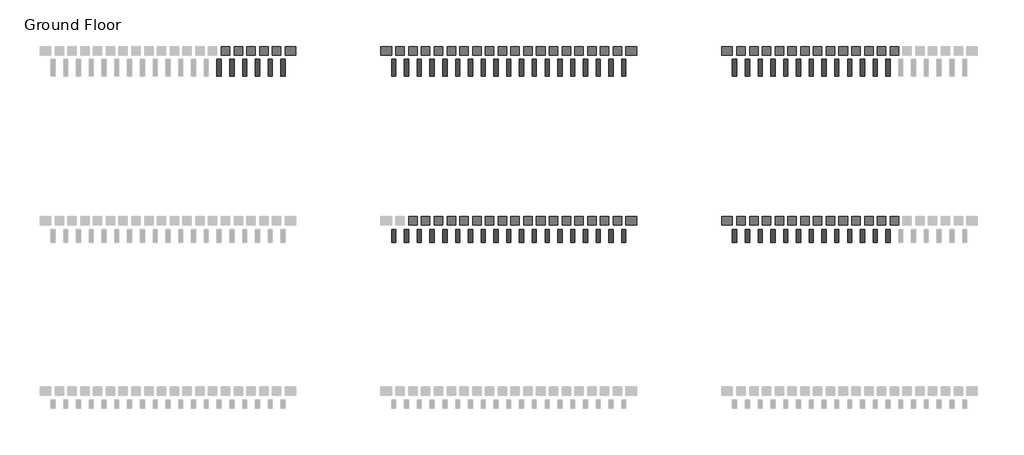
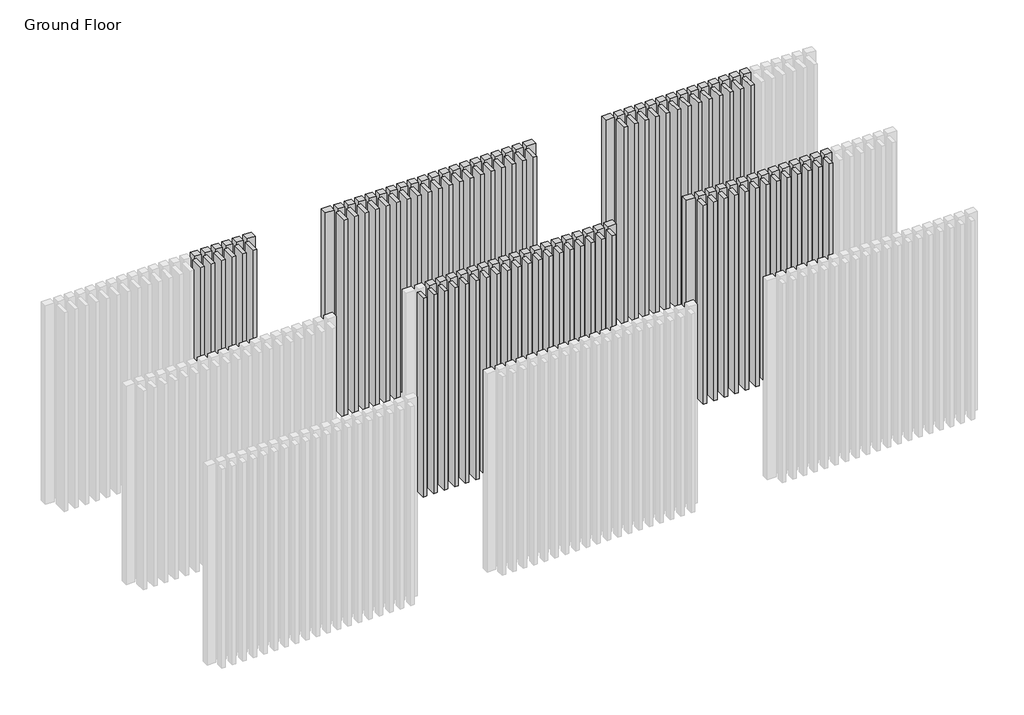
# One storey, part 21 of 350: 72 plates, 70 members.
"""IFC4 building model written with IfcOpenShell, lengths in millimetres."""

from ifc_helpers import new_model, si_unit, origin, place, context, project, spatial, transform, mapped, element, save
from components import rectangular_mullion_afeb8ef8, rectangular_mullion_26362614, empty_system_panel_empty_a8601f27, empty_system_panel_empty_23ba90fe, empty_system_panel_empty_02e968fa

model = new_model("IFC4")

# Units and contexts
model_context = context("Model", 3, world=origin())
ifc_project = project(units=[si_unit("LENGTHUNIT", "METRE", prefix="MILLI")], contexts=[model_context])

# Site, building, storey
site = spatial("IfcSite", under=ifc_project)
building = spatial("IfcBuilding", under=site)
storey = spatial("IfcBuildingStorey", under=building, Name="Ground Floor", Elevation=0.0)

# Members
placement = place(None, origin())
rectangular_mullion_shape = rectangular_mullion_afeb8ef8(model_context)
element("IfcMember", 1, ObjectType="Rectangular Mullion : Batten_Aluminium_Modinex_AluBatten_50x200_TasmanianOak", at=placement, inside=storey, context=model_context, shape_type="MappedRepresentation", body=[
    mapped(rectangular_mullion_shape, transform((18066.4361642, 26968.2978302, 0.0), x_axis=(1.0, 0.0, 0.0), y_axis=(0.0, -1.0, 0.0), z_axis=(0.0, 0.0, -1.0))),
])
element("IfcMember", 2, ObjectType="Rectangular Mullion : Batten_Aluminium_Modinex_AluBatten_50x200_TasmanianOak", at=placement, inside=storey, context=model_context, shape_type="MappedRepresentation", body=[
    mapped(rectangular_mullion_shape, transform((18216.4361642, 26968.2978302, 0.0), x_axis=(1.0, 0.0, 0.0), y_axis=(0.0, -1.0, 0.0), z_axis=(0.0, 0.0, -1.0))),
])
element("IfcMember", 3, ObjectType="Rectangular Mullion : Batten_Aluminium_Modinex_AluBatten_50x200_TasmanianOak", at=placement, inside=storey, context=model_context, shape_type="MappedRepresentation", body=[
    mapped(rectangular_mullion_shape, transform((18366.4361642, 26968.2978302, 0.0), x_axis=(1.0, 0.0, 0.0), y_axis=(0.0, -1.0, 0.0), z_axis=(0.0, 0.0, -1.0))),
])
element("IfcMember", 4, ObjectType="Rectangular Mullion : Batten_Aluminium_Modinex_AluBatten_50x200_TasmanianOak", at=placement, inside=storey, context=model_context, shape_type="MappedRepresentation", body=[
    mapped(rectangular_mullion_shape, transform((18516.4361642, 26968.2978302, 0.0), x_axis=(1.0, 0.0, 0.0), y_axis=(0.0, -1.0, 0.0), z_axis=(0.0, 0.0, -1.0))),
])
element("IfcMember", 5, ObjectType="Rectangular Mullion : Batten_Aluminium_Modinex_AluBatten_50x200_TasmanianOak", at=placement, inside=storey, context=model_context, shape_type="MappedRepresentation", body=[
    mapped(rectangular_mullion_shape, transform((18666.4361642, 26968.2978302, 0.0), x_axis=(1.0, 0.0, 0.0), y_axis=(0.0, -1.0, 0.0), z_axis=(0.0, 0.0, -1.0))),
])
element("IfcMember", 6, ObjectType="Rectangular Mullion : Batten_Aluminium_Modinex_AluBatten_50x200_TasmanianOak", at=placement, inside=storey, context=model_context, shape_type="MappedRepresentation", body=[
    mapped(rectangular_mullion_shape, transform((18816.4361642, 26968.2978302, 0.0), x_axis=(1.0, 0.0, 0.0), y_axis=(0.0, -1.0, 0.0), z_axis=(0.0, 0.0, -1.0))),
])
element("IfcMember", 7, ObjectType="Rectangular Mullion : Batten_Aluminium_Modinex_AluBatten_50x200_TasmanianOak", at=placement, inside=storey, context=model_context, shape_type="MappedRepresentation", body=[
    mapped(rectangular_mullion_shape, transform((18966.4361642, 26968.2978302, 0.0), x_axis=(1.0, 0.0, 0.0), y_axis=(0.0, -1.0, 0.0), z_axis=(0.0, 0.0, -1.0))),
])
element("IfcMember", 8, ObjectType="Rectangular Mullion : Batten_Aluminium_Modinex_AluBatten_50x200_TasmanianOak", at=placement, inside=storey, context=model_context, shape_type="MappedRepresentation", body=[
    mapped(rectangular_mullion_shape, transform((19116.4361642, 26968.2978302, 0.0), x_axis=(1.0, 0.0, 0.0), y_axis=(0.0, -1.0, 0.0), z_axis=(0.0, 0.0, -1.0))),
])
element("IfcMember", 9, ObjectType="Rectangular Mullion : Batten_Aluminium_Modinex_AluBatten_50x200_TasmanianOak", at=placement, inside=storey, context=model_context, shape_type="MappedRepresentation", body=[
    mapped(rectangular_mullion_shape, transform((19266.4361642, 26968.2978302, 0.0), x_axis=(1.0, 0.0, 0.0), y_axis=(0.0, -1.0, 0.0), z_axis=(0.0, 0.0, -1.0))),
])
element("IfcMember", 10, ObjectType="Rectangular Mullion : Batten_Aluminium_Modinex_AluBatten_50x200_TasmanianOak", at=placement, inside=storey, context=model_context, shape_type="MappedRepresentation", body=[
    mapped(rectangular_mullion_shape, transform((19416.4361642, 26968.2978302, 0.0), x_axis=(1.0, 0.0, 0.0), y_axis=(0.0, -1.0, 0.0), z_axis=(0.0, 0.0, -1.0))),
])
element("IfcMember", 11, ObjectType="Rectangular Mullion : Batten_Aluminium_Modinex_AluBatten_50x200_TasmanianOak", at=placement, inside=storey, context=model_context, shape_type="MappedRepresentation", body=[
    mapped(rectangular_mullion_shape, transform((19566.4361642, 26968.2978302, 0.0), x_axis=(1.0, 0.0, 0.0), y_axis=(0.0, -1.0, 0.0), z_axis=(0.0, 0.0, -1.0))),
])
element("IfcMember", 12, ObjectType="Rectangular Mullion : Batten_Aluminium_Modinex_AluBatten_50x200_TasmanianOak", at=placement, inside=storey, context=model_context, shape_type="MappedRepresentation", body=[
    mapped(rectangular_mullion_shape, transform((19716.4361642, 26968.2978302, 0.0), x_axis=(1.0, 0.0, 0.0), y_axis=(0.0, -1.0, 0.0), z_axis=(0.0, 0.0, -1.0))),
])
element("IfcMember", 13, ObjectType="Rectangular Mullion : Batten_Aluminium_Modinex_AluBatten_50x200_TasmanianOak", at=placement, inside=storey, context=model_context, shape_type="MappedRepresentation", body=[
    mapped(rectangular_mullion_shape, transform((19866.4361642, 26968.2978302, 0.0), x_axis=(1.0, 0.0, 0.0), y_axis=(0.0, -1.0, 0.0), z_axis=(0.0, 0.0, -1.0))),
])
element("IfcMember", 14, ObjectType="Rectangular Mullion : Batten_Aluminium_Modinex_AluBatten_50x200_TasmanianOak", at=placement, inside=storey, context=model_context, shape_type="MappedRepresentation", body=[
    mapped(rectangular_mullion_shape, transform((20016.4361642, 26968.2978302, 0.0), x_axis=(1.0, 0.0, 0.0), y_axis=(0.0, -1.0, 0.0), z_axis=(0.0, 0.0, -1.0))),
])
element("IfcMember", 15, ObjectType="Rectangular Mullion : Batten_Aluminium_Modinex_AluBatten_50x200_TasmanianOak", at=placement, inside=storey, context=model_context, shape_type="MappedRepresentation", body=[
    mapped(rectangular_mullion_shape, transform((20166.4361642, 26968.2978302, 0.0), x_axis=(1.0, 0.0, 0.0), y_axis=(0.0, -1.0, 0.0), z_axis=(0.0, 0.0, -1.0))),
])
element("IfcMember", 16, ObjectType="Rectangular Mullion : Batten_Aluminium_Modinex_AluBatten_50x200_TasmanianOak", at=placement, inside=storey, context=model_context, shape_type="MappedRepresentation", body=[
    mapped(rectangular_mullion_shape, transform((20316.4361642, 26968.2978302, 0.0), x_axis=(1.0, 0.0, 0.0), y_axis=(0.0, -1.0, 0.0), z_axis=(0.0, 0.0, -1.0))),
])
element("IfcMember", 17, ObjectType="Rectangular Mullion : Batten_Aluminium_Modinex_AluBatten_50x200_TasmanianOak", at=placement, inside=storey, context=model_context, shape_type="MappedRepresentation", body=[
    mapped(rectangular_mullion_shape, transform((20466.4361642, 26968.2978302, 0.0), x_axis=(1.0, 0.0, 0.0), y_axis=(0.0, -1.0, 0.0), z_axis=(0.0, 0.0, -1.0))),
])
element("IfcMember", 18, ObjectType="Rectangular Mullion : Batten_Aluminium_Modinex_AluBatten_50x200_TasmanianOak", at=placement, inside=storey, context=model_context, shape_type="MappedRepresentation", body=[
    mapped(rectangular_mullion_shape, transform((20616.4361642, 26968.2978302, 0.0), x_axis=(1.0, 0.0, 0.0), y_axis=(0.0, -1.0, 0.0), z_axis=(0.0, 0.0, -1.0))),
])
element("IfcMember", 19, ObjectType="Rectangular Mullion : Batten_Aluminium_Modinex_AluBatten_50x200_TasmanianOak", at=placement, inside=storey, context=model_context, shape_type="MappedRepresentation", body=[
    mapped(rectangular_mullion_shape, transform((20766.4361642, 26968.2978302, 0.0), x_axis=(1.0, 0.0, 0.0), y_axis=(0.0, -1.0, 0.0), z_axis=(0.0, 0.0, -1.0))),
])
rectangular_mullion_2_shape = rectangular_mullion_26362614(model_context)
element("IfcMember", 20, ObjectType="Rectangular Mullion : Batten_Aluminium_Modinex_AluBatten_50x150_TasmanianOak", at=placement, inside=storey, context=model_context, shape_type="MappedRepresentation", body=[
    mapped(rectangular_mullion_2_shape, transform((18066.4361642, 24968.2978302, 0.0), x_axis=(1.0, 0.0, 0.0), y_axis=(0.0, -1.0, 0.0), z_axis=(0.0, 0.0, -1.0))),
])
element("IfcMember", 21, ObjectType="Rectangular Mullion : Batten_Aluminium_Modinex_AluBatten_50x150_TasmanianOak", at=placement, inside=storey, context=model_context, shape_type="MappedRepresentation", body=[
    mapped(rectangular_mullion_2_shape, transform((18216.4361642, 24968.2978302, 0.0), x_axis=(1.0, 0.0, 0.0), y_axis=(0.0, -1.0, 0.0), z_axis=(0.0, 0.0, -1.0))),
])
element("IfcMember", 22, ObjectType="Rectangular Mullion : Batten_Aluminium_Modinex_AluBatten_50x150_TasmanianOak", at=placement, inside=storey, context=model_context, shape_type="MappedRepresentation", body=[
    mapped(rectangular_mullion_2_shape, transform((18366.4361642, 24968.2978302, 0.0), x_axis=(1.0, 0.0, 0.0), y_axis=(0.0, -1.0, 0.0), z_axis=(0.0, 0.0, -1.0))),
])
element("IfcMember", 23, ObjectType="Rectangular Mullion : Batten_Aluminium_Modinex_AluBatten_50x150_TasmanianOak", at=placement, inside=storey, context=model_context, shape_type="MappedRepresentation", body=[
    mapped(rectangular_mullion_2_shape, transform((18516.4361642, 24968.2978302, 0.0), x_axis=(1.0, 0.0, 0.0), y_axis=(0.0, -1.0, 0.0), z_axis=(0.0, 0.0, -1.0))),
])
element("IfcMember", 24, ObjectType="Rectangular Mullion : Batten_Aluminium_Modinex_AluBatten_50x150_TasmanianOak", at=placement, inside=storey, context=model_context, shape_type="MappedRepresentation", body=[
    mapped(rectangular_mullion_2_shape, transform((18666.4361642, 24968.2978302, 0.0), x_axis=(1.0, 0.0, 0.0), y_axis=(0.0, -1.0, 0.0), z_axis=(0.0, 0.0, -1.0))),
])
element("IfcMember", 25, ObjectType="Rectangular Mullion : Batten_Aluminium_Modinex_AluBatten_50x150_TasmanianOak", at=placement, inside=storey, context=model_context, shape_type="MappedRepresentation", body=[
    mapped(rectangular_mullion_2_shape, transform((18816.4361642, 24968.2978302, 0.0), x_axis=(1.0, 0.0, 0.0), y_axis=(0.0, -1.0, 0.0), z_axis=(0.0, 0.0, -1.0))),
])
element("IfcMember", 26, ObjectType="Rectangular Mullion : Batten_Aluminium_Modinex_AluBatten_50x150_TasmanianOak", at=placement, inside=storey, context=model_context, shape_type="MappedRepresentation", body=[
    mapped(rectangular_mullion_2_shape, transform((18966.4361642, 24968.2978302, 0.0), x_axis=(1.0, 0.0, 0.0), y_axis=(0.0, -1.0, 0.0), z_axis=(0.0, 0.0, -1.0))),
])
element("IfcMember", 27, ObjectType="Rectangular Mullion : Batten_Aluminium_Modinex_AluBatten_50x150_TasmanianOak", at=placement, inside=storey, context=model_context, shape_type="MappedRepresentation", body=[
    mapped(rectangular_mullion_2_shape, transform((19116.4361642, 24968.2978302, 0.0), x_axis=(1.0, 0.0, 0.0), y_axis=(0.0, -1.0, 0.0), z_axis=(0.0, 0.0, -1.0))),
])
element("IfcMember", 28, ObjectType="Rectangular Mullion : Batten_Aluminium_Modinex_AluBatten_50x150_TasmanianOak", at=placement, inside=storey, context=model_context, shape_type="MappedRepresentation", body=[
    mapped(rectangular_mullion_2_shape, transform((19266.4361642, 24968.2978302, 0.0), x_axis=(1.0, 0.0, 0.0), y_axis=(0.0, -1.0, 0.0), z_axis=(0.0, 0.0, -1.0))),
])
element("IfcMember", 29, ObjectType="Rectangular Mullion : Batten_Aluminium_Modinex_AluBatten_50x150_TasmanianOak", at=placement, inside=storey, context=model_context, shape_type="MappedRepresentation", body=[
    mapped(rectangular_mullion_2_shape, transform((19416.4361642, 24968.2978302, 0.0), x_axis=(1.0, 0.0, 0.0), y_axis=(0.0, -1.0, 0.0), z_axis=(0.0, 0.0, -1.0))),
])
element("IfcMember", 30, ObjectType="Rectangular Mullion : Batten_Aluminium_Modinex_AluBatten_50x150_TasmanianOak", at=placement, inside=storey, context=model_context, shape_type="MappedRepresentation", body=[
    mapped(rectangular_mullion_2_shape, transform((19566.4361642, 24968.2978302, 0.0), x_axis=(1.0, 0.0, 0.0), y_axis=(0.0, -1.0, 0.0), z_axis=(0.0, 0.0, -1.0))),
])
element("IfcMember", 31, ObjectType="Rectangular Mullion : Batten_Aluminium_Modinex_AluBatten_50x150_TasmanianOak", at=placement, inside=storey, context=model_context, shape_type="MappedRepresentation", body=[
    mapped(rectangular_mullion_2_shape, transform((19716.4361642, 24968.2978302, 0.0), x_axis=(1.0, 0.0, 0.0), y_axis=(0.0, -1.0, 0.0), z_axis=(0.0, 0.0, -1.0))),
])
element("IfcMember", 32, ObjectType="Rectangular Mullion : Batten_Aluminium_Modinex_AluBatten_50x150_TasmanianOak", at=placement, inside=storey, context=model_context, shape_type="MappedRepresentation", body=[
    mapped(rectangular_mullion_2_shape, transform((19866.4361642, 24968.2978302, 0.0), x_axis=(1.0, 0.0, 0.0), y_axis=(0.0, -1.0, 0.0), z_axis=(0.0, 0.0, -1.0))),
])
element("IfcMember", 33, ObjectType="Rectangular Mullion : Batten_Aluminium_Modinex_AluBatten_50x150_TasmanianOak", at=placement, inside=storey, context=model_context, shape_type="MappedRepresentation", body=[
    mapped(rectangular_mullion_2_shape, transform((20016.4361642, 24968.2978302, 0.0), x_axis=(1.0, 0.0, 0.0), y_axis=(0.0, -1.0, 0.0), z_axis=(0.0, 0.0, -1.0))),
])
element("IfcMember", 34, ObjectType="Rectangular Mullion : Batten_Aluminium_Modinex_AluBatten_50x150_TasmanianOak", at=placement, inside=storey, context=model_context, shape_type="MappedRepresentation", body=[
    mapped(rectangular_mullion_2_shape, transform((20166.4361642, 24968.2978302, 0.0), x_axis=(1.0, 0.0, 0.0), y_axis=(0.0, -1.0, 0.0), z_axis=(0.0, 0.0, -1.0))),
])
element("IfcMember", 35, ObjectType="Rectangular Mullion : Batten_Aluminium_Modinex_AluBatten_50x150_TasmanianOak", at=placement, inside=storey, context=model_context, shape_type="MappedRepresentation", body=[
    mapped(rectangular_mullion_2_shape, transform((20316.4361642, 24968.2978302, 0.0), x_axis=(1.0, 0.0, 0.0), y_axis=(0.0, -1.0, 0.0), z_axis=(0.0, 0.0, -1.0))),
])
element("IfcMember", 36, ObjectType="Rectangular Mullion : Batten_Aluminium_Modinex_AluBatten_50x150_TasmanianOak", at=placement, inside=storey, context=model_context, shape_type="MappedRepresentation", body=[
    mapped(rectangular_mullion_2_shape, transform((20466.4361642, 24968.2978302, 0.0), x_axis=(1.0, 0.0, 0.0), y_axis=(0.0, -1.0, 0.0), z_axis=(0.0, 0.0, -1.0))),
])
element("IfcMember", 37, ObjectType="Rectangular Mullion : Batten_Aluminium_Modinex_AluBatten_50x150_TasmanianOak", at=placement, inside=storey, context=model_context, shape_type="MappedRepresentation", body=[
    mapped(rectangular_mullion_2_shape, transform((20616.4361642, 24968.2978302, 0.0), x_axis=(1.0, 0.0, 0.0), y_axis=(0.0, -1.0, 0.0), z_axis=(0.0, 0.0, -1.0))),
])
element("IfcMember", 38, ObjectType="Rectangular Mullion : Batten_Aluminium_Modinex_AluBatten_50x150_TasmanianOak", at=placement, inside=storey, context=model_context, shape_type="MappedRepresentation", body=[
    mapped(rectangular_mullion_2_shape, transform((20766.4361642, 24968.2978302, 0.0), x_axis=(1.0, 0.0, 0.0), y_axis=(0.0, -1.0, 0.0), z_axis=(0.0, 0.0, -1.0))),
])
element("IfcMember", 39, ObjectType="Rectangular Mullion : Batten_Aluminium_Modinex_AluBatten_50x200_SpottedGum", at=placement, inside=storey, context=model_context, shape_type="MappedRepresentation", body=[
    mapped(rectangular_mullion_shape, transform((16016.4361642, 26968.2978302, 0.0), x_axis=(1.0, 0.0, 0.0), y_axis=(0.0, -1.0, 0.0), z_axis=(0.0, 0.0, -1.0))),
])
element("IfcMember", 40, ObjectType="Rectangular Mullion : Batten_Aluminium_Modinex_AluBatten_50x200_SpottedGum", at=placement, inside=storey, context=model_context, shape_type="MappedRepresentation", body=[
    mapped(rectangular_mullion_shape, transform((16166.4361642, 26968.2978302, 0.0), x_axis=(1.0, 0.0, 0.0), y_axis=(0.0, -1.0, 0.0), z_axis=(0.0, 0.0, -1.0))),
])
element("IfcMember", 41, ObjectType="Rectangular Mullion : Batten_Aluminium_Modinex_AluBatten_50x200_SpottedGum", at=placement, inside=storey, context=model_context, shape_type="MappedRepresentation", body=[
    mapped(rectangular_mullion_shape, transform((16316.4361642, 26968.2978302, 0.0), x_axis=(1.0, 0.0, 0.0), y_axis=(0.0, -1.0, 0.0), z_axis=(0.0, 0.0, -1.0))),
])
element("IfcMember", 42, ObjectType="Rectangular Mullion : Batten_Aluminium_Modinex_AluBatten_50x200_SpottedGum", at=placement, inside=storey, context=model_context, shape_type="MappedRepresentation", body=[
    mapped(rectangular_mullion_shape, transform((16466.4361642, 26968.2978302, 0.0), x_axis=(1.0, 0.0, 0.0), y_axis=(0.0, -1.0, 0.0), z_axis=(0.0, 0.0, -1.0))),
])
element("IfcMember", 43, ObjectType="Rectangular Mullion : Batten_Aluminium_Modinex_AluBatten_50x200_SpottedGum", at=placement, inside=storey, context=model_context, shape_type="MappedRepresentation", body=[
    mapped(rectangular_mullion_shape, transform((16616.4361642, 26968.2978302, 0.0), x_axis=(1.0, 0.0, 0.0), y_axis=(0.0, -1.0, 0.0), z_axis=(0.0, 0.0, -1.0))),
])
element("IfcMember", 44, ObjectType="Rectangular Mullion : Batten_Aluminium_Modinex_AluBatten_50x200_SpottedGum", at=placement, inside=storey, context=model_context, shape_type="MappedRepresentation", body=[
    mapped(rectangular_mullion_shape, transform((16766.4361642, 26968.2978302, 0.0), x_axis=(1.0, 0.0, 0.0), y_axis=(0.0, -1.0, 0.0), z_axis=(0.0, 0.0, -1.0))),
])
element("IfcMember", 45, ObjectType="Rectangular Mullion : Batten_Aluminium_Modinex_AluBatten_50x150_WhiteOak", at=placement, inside=storey, context=model_context, shape_type="MappedRepresentation", body=[
    mapped(rectangular_mullion_2_shape, transform((22066.4361642, 24968.2978302, 0.0), x_axis=(1.0, 0.0, 0.0), y_axis=(0.0, -1.0, 0.0), z_axis=(0.0, 0.0, -1.0))),
])
element("IfcMember", 46, ObjectType="Rectangular Mullion : Batten_Aluminium_Modinex_AluBatten_50x150_WhiteOak", at=placement, inside=storey, context=model_context, shape_type="MappedRepresentation", body=[
    mapped(rectangular_mullion_2_shape, transform((22216.4361642, 24968.2978302, 0.0), x_axis=(1.0, 0.0, 0.0), y_axis=(0.0, -1.0, 0.0), z_axis=(0.0, 0.0, -1.0))),
])
element("IfcMember", 47, ObjectType="Rectangular Mullion : Batten_Aluminium_Modinex_AluBatten_50x150_WhiteOak", at=placement, inside=storey, context=model_context, shape_type="MappedRepresentation", body=[
    mapped(rectangular_mullion_2_shape, transform((22366.4361642, 24968.2978302, 0.0), x_axis=(1.0, 0.0, 0.0), y_axis=(0.0, -1.0, 0.0), z_axis=(0.0, 0.0, -1.0))),
])
element("IfcMember", 48, ObjectType="Rectangular Mullion : Batten_Aluminium_Modinex_AluBatten_50x150_WhiteOak", at=placement, inside=storey, context=model_context, shape_type="MappedRepresentation", body=[
    mapped(rectangular_mullion_2_shape, transform((22516.4361642, 24968.2978302, 0.0), x_axis=(1.0, 0.0, 0.0), y_axis=(0.0, -1.0, 0.0), z_axis=(0.0, 0.0, -1.0))),
])
element("IfcMember", 49, ObjectType="Rectangular Mullion : Batten_Aluminium_Modinex_AluBatten_50x150_WhiteOak", at=placement, inside=storey, context=model_context, shape_type="MappedRepresentation", body=[
    mapped(rectangular_mullion_2_shape, transform((22666.4361642, 24968.2978302, 0.0), x_axis=(1.0, 0.0, 0.0), y_axis=(0.0, -1.0, 0.0), z_axis=(0.0, 0.0, -1.0))),
])
element("IfcMember", 50, ObjectType="Rectangular Mullion : Batten_Aluminium_Modinex_AluBatten_50x150_WhiteOak", at=placement, inside=storey, context=model_context, shape_type="MappedRepresentation", body=[
    mapped(rectangular_mullion_2_shape, transform((22816.4361642, 24968.2978302, 0.0), x_axis=(1.0, 0.0, 0.0), y_axis=(0.0, -1.0, 0.0), z_axis=(0.0, 0.0, -1.0))),
])
element("IfcMember", 51, ObjectType="Rectangular Mullion : Batten_Aluminium_Modinex_AluBatten_50x150_WhiteOak", at=placement, inside=storey, context=model_context, shape_type="MappedRepresentation", body=[
    mapped(rectangular_mullion_2_shape, transform((22966.4361642, 24968.2978302, 0.0), x_axis=(1.0, 0.0, 0.0), y_axis=(0.0, -1.0, 0.0), z_axis=(0.0, 0.0, -1.0))),
])
element("IfcMember", 52, ObjectType="Rectangular Mullion : Batten_Aluminium_Modinex_AluBatten_50x150_WhiteOak", at=placement, inside=storey, context=model_context, shape_type="MappedRepresentation", body=[
    mapped(rectangular_mullion_2_shape, transform((23116.4361642, 24968.2978302, 0.0), x_axis=(1.0, 0.0, 0.0), y_axis=(0.0, -1.0, 0.0), z_axis=(0.0, 0.0, -1.0))),
])
element("IfcMember", 53, ObjectType="Rectangular Mullion : Batten_Aluminium_Modinex_AluBatten_50x150_WhiteOak", at=placement, inside=storey, context=model_context, shape_type="MappedRepresentation", body=[
    mapped(rectangular_mullion_2_shape, transform((23266.4361642, 24968.2978302, 0.0), x_axis=(1.0, 0.0, 0.0), y_axis=(0.0, -1.0, 0.0), z_axis=(0.0, 0.0, -1.0))),
])
element("IfcMember", 54, ObjectType="Rectangular Mullion : Batten_Aluminium_Modinex_AluBatten_50x150_WhiteOak", at=placement, inside=storey, context=model_context, shape_type="MappedRepresentation", body=[
    mapped(rectangular_mullion_2_shape, transform((23416.4361642, 24968.2978302, 0.0), x_axis=(1.0, 0.0, 0.0), y_axis=(0.0, -1.0, 0.0), z_axis=(0.0, 0.0, -1.0))),
])
element("IfcMember", 55, ObjectType="Rectangular Mullion : Batten_Aluminium_Modinex_AluBatten_50x150_WhiteOak", at=placement, inside=storey, context=model_context, shape_type="MappedRepresentation", body=[
    mapped(rectangular_mullion_2_shape, transform((23566.4361642, 24968.2978302, 0.0), x_axis=(1.0, 0.0, 0.0), y_axis=(0.0, -1.0, 0.0), z_axis=(0.0, 0.0, -1.0))),
])
element("IfcMember", 56, ObjectType="Rectangular Mullion : Batten_Aluminium_Modinex_AluBatten_50x150_WhiteOak", at=placement, inside=storey, context=model_context, shape_type="MappedRepresentation", body=[
    mapped(rectangular_mullion_2_shape, transform((23716.4361642, 24968.2978302, 0.0), x_axis=(1.0, 0.0, 0.0), y_axis=(0.0, -1.0, 0.0), z_axis=(0.0, 0.0, -1.0))),
])
element("IfcMember", 57, ObjectType="Rectangular Mullion : Batten_Aluminium_Modinex_AluBatten_50x150_WhiteOak", at=placement, inside=storey, context=model_context, shape_type="MappedRepresentation", body=[
    mapped(rectangular_mullion_2_shape, transform((23866.4361642, 24968.2978302, 0.0), x_axis=(1.0, 0.0, 0.0), y_axis=(0.0, -1.0, 0.0), z_axis=(0.0, 0.0, -1.0))),
])
element("IfcMember", 58, ObjectType="Rectangular Mullion : Batten_Aluminium_Modinex_AluBatten_50x200_WhiteOak", at=placement, inside=storey, context=model_context, shape_type="MappedRepresentation", body=[
    mapped(rectangular_mullion_shape, transform((22066.4361642, 26968.2978302, 0.0), x_axis=(1.0, 0.0, 0.0), y_axis=(0.0, -1.0, 0.0), z_axis=(0.0, 0.0, -1.0))),
])
element("IfcMember", 59, ObjectType="Rectangular Mullion : Batten_Aluminium_Modinex_AluBatten_50x200_WhiteOak", at=placement, inside=storey, context=model_context, shape_type="MappedRepresentation", body=[
    mapped(rectangular_mullion_shape, transform((22216.4361642, 26968.2978302, 0.0), x_axis=(1.0, 0.0, 0.0), y_axis=(0.0, -1.0, 0.0), z_axis=(0.0, 0.0, -1.0))),
])
element("IfcMember", 60, ObjectType="Rectangular Mullion : Batten_Aluminium_Modinex_AluBatten_50x200_WhiteOak", at=placement, inside=storey, context=model_context, shape_type="MappedRepresentation", body=[
    mapped(rectangular_mullion_shape, transform((22366.4361642, 26968.2978302, 0.0), x_axis=(1.0, 0.0, 0.0), y_axis=(0.0, -1.0, 0.0), z_axis=(0.0, 0.0, -1.0))),
])
element("IfcMember", 61, ObjectType="Rectangular Mullion : Batten_Aluminium_Modinex_AluBatten_50x200_WhiteOak", at=placement, inside=storey, context=model_context, shape_type="MappedRepresentation", body=[
    mapped(rectangular_mullion_shape, transform((22516.4361642, 26968.2978302, 0.0), x_axis=(1.0, 0.0, 0.0), y_axis=(0.0, -1.0, 0.0), z_axis=(0.0, 0.0, -1.0))),
])
element("IfcMember", 62, ObjectType="Rectangular Mullion : Batten_Aluminium_Modinex_AluBatten_50x200_WhiteOak", at=placement, inside=storey, context=model_context, shape_type="MappedRepresentation", body=[
    mapped(rectangular_mullion_shape, transform((22666.4361642, 26968.2978302, 0.0), x_axis=(1.0, 0.0, 0.0), y_axis=(0.0, -1.0, 0.0), z_axis=(0.0, 0.0, -1.0))),
])
element("IfcMember", 63, ObjectType="Rectangular Mullion : Batten_Aluminium_Modinex_AluBatten_50x200_WhiteOak", at=placement, inside=storey, context=model_context, shape_type="MappedRepresentation", body=[
    mapped(rectangular_mullion_shape, transform((22816.4361642, 26968.2978302, 0.0), x_axis=(1.0, 0.0, 0.0), y_axis=(0.0, -1.0, 0.0), z_axis=(0.0, 0.0, -1.0))),
])
element("IfcMember", 64, ObjectType="Rectangular Mullion : Batten_Aluminium_Modinex_AluBatten_50x200_WhiteOak", at=placement, inside=storey, context=model_context, shape_type="MappedRepresentation", body=[
    mapped(rectangular_mullion_shape, transform((22966.4361642, 26968.2978302, 0.0), x_axis=(1.0, 0.0, 0.0), y_axis=(0.0, -1.0, 0.0), z_axis=(0.0, 0.0, -1.0))),
])
element("IfcMember", 65, ObjectType="Rectangular Mullion : Batten_Aluminium_Modinex_AluBatten_50x200_WhiteOak", at=placement, inside=storey, context=model_context, shape_type="MappedRepresentation", body=[
    mapped(rectangular_mullion_shape, transform((23116.4361642, 26968.2978302, 0.0), x_axis=(1.0, 0.0, 0.0), y_axis=(0.0, -1.0, 0.0), z_axis=(0.0, 0.0, -1.0))),
])
element("IfcMember", 66, ObjectType="Rectangular Mullion : Batten_Aluminium_Modinex_AluBatten_50x200_WhiteOak", at=placement, inside=storey, context=model_context, shape_type="MappedRepresentation", body=[
    mapped(rectangular_mullion_shape, transform((23266.4361642, 26968.2978302, 0.0), x_axis=(1.0, 0.0, 0.0), y_axis=(0.0, -1.0, 0.0), z_axis=(0.0, 0.0, -1.0))),
])
element("IfcMember", 67, ObjectType="Rectangular Mullion : Batten_Aluminium_Modinex_AluBatten_50x200_WhiteOak", at=placement, inside=storey, context=model_context, shape_type="MappedRepresentation", body=[
    mapped(rectangular_mullion_shape, transform((23416.4361642, 26968.2978302, 0.0), x_axis=(1.0, 0.0, 0.0), y_axis=(0.0, -1.0, 0.0), z_axis=(0.0, 0.0, -1.0))),
])
element("IfcMember", 68, ObjectType="Rectangular Mullion : Batten_Aluminium_Modinex_AluBatten_50x200_WhiteOak", at=placement, inside=storey, context=model_context, shape_type="MappedRepresentation", body=[
    mapped(rectangular_mullion_shape, transform((23566.4361642, 26968.2978302, 0.0), x_axis=(1.0, 0.0, 0.0), y_axis=(0.0, -1.0, 0.0), z_axis=(0.0, 0.0, -1.0))),
])
element("IfcMember", 69, ObjectType="Rectangular Mullion : Batten_Aluminium_Modinex_AluBatten_50x200_WhiteOak", at=placement, inside=storey, context=model_context, shape_type="MappedRepresentation", body=[
    mapped(rectangular_mullion_shape, transform((23716.4361642, 26968.2978302, 0.0), x_axis=(1.0, 0.0, 0.0), y_axis=(0.0, -1.0, 0.0), z_axis=(0.0, 0.0, -1.0))),
])
element("IfcMember", 70, ObjectType="Rectangular Mullion : Batten_Aluminium_Modinex_AluBatten_50x200_WhiteOak", at=placement, inside=storey, context=model_context, shape_type="MappedRepresentation", body=[
    mapped(rectangular_mullion_shape, transform((23866.4361642, 26968.2978302, 0.0), x_axis=(1.0, 0.0, 0.0), y_axis=(0.0, -1.0, 0.0), z_axis=(0.0, 0.0, -1.0))),
])

# Plates
empty_system_panel_empty_shape = empty_system_panel_empty_a8601f27(model_context)
element("IfcPlate", 71, ObjectType="Empty System Panel : Empty", at=placement, inside=storey, context=model_context, shape_type="MappedRepresentation", body=[
    mapped(empty_system_panel_empty_shape, transform((17978.9361641, 26968.2978302, 0.0), x_axis=(1.0, 0.0, 0.0), y_axis=(0.0, 1.0, 0.0), z_axis=(0.0, 0.0, 1.0))),
])
element("IfcPlate", 72, ObjectType="Empty System Panel : Empty", at=placement, inside=storey, context=model_context, shape_type="MappedRepresentation", body=[
    mapped(empty_system_panel_empty_shape, transform((21978.9361641, 24968.2978302, 0.0), x_axis=(1.0, 0.0, 0.0), y_axis=(0.0, 1.0, 0.0), z_axis=(0.0, 0.0, 1.0))),
])
element("IfcPlate", 73, ObjectType="Empty System Panel : Empty", at=placement, inside=storey, context=model_context, shape_type="MappedRepresentation", body=[
    mapped(empty_system_panel_empty_shape, transform((21978.9361641, 26968.2978302, 0.0), x_axis=(1.0, 0.0, 0.0), y_axis=(0.0, 1.0, 0.0), z_axis=(0.0, 0.0, 1.0))),
])
empty_system_panel_empty_2_shape = empty_system_panel_empty_23ba90fe(model_context)
element("IfcPlate", 74, ObjectType="Empty System Panel : Empty", at=placement, inside=storey, context=model_context, shape_type="MappedRepresentation", body=[
    mapped(empty_system_panel_empty_2_shape, transform((18291.4361642, 24968.2978302, 0.0), x_axis=(1.0, 0.0, 0.0), y_axis=(0.0, 1.0, 0.0), z_axis=(0.0, 0.0, 1.0))),
])
element("IfcPlate", 75, ObjectType="Empty System Panel : Empty", at=placement, inside=storey, context=model_context, shape_type="MappedRepresentation", body=[
    mapped(empty_system_panel_empty_2_shape, transform((18441.4361642, 24968.2978302, 0.0), x_axis=(1.0, 0.0, 0.0), y_axis=(0.0, 1.0, 0.0), z_axis=(0.0, 0.0, 1.0))),
])
element("IfcPlate", 76, ObjectType="Empty System Panel : Empty", at=placement, inside=storey, context=model_context, shape_type="MappedRepresentation", body=[
    mapped(empty_system_panel_empty_2_shape, transform((18591.4361642, 24968.2978302, 0.0), x_axis=(1.0, 0.0, 0.0), y_axis=(0.0, 1.0, 0.0), z_axis=(0.0, 0.0, 1.0))),
])
element("IfcPlate", 77, ObjectType="Empty System Panel : Empty", at=placement, inside=storey, context=model_context, shape_type="MappedRepresentation", body=[
    mapped(empty_system_panel_empty_2_shape, transform((18741.4361642, 24968.2978302, 0.0), x_axis=(1.0, 0.0, 0.0), y_axis=(0.0, 1.0, 0.0), z_axis=(0.0, 0.0, 1.0))),
])
element("IfcPlate", 78, ObjectType="Empty System Panel : Empty", at=placement, inside=storey, context=model_context, shape_type="MappedRepresentation", body=[
    mapped(empty_system_panel_empty_2_shape, transform((18891.4361642, 24968.2978302, 0.0), x_axis=(1.0, 0.0, 0.0), y_axis=(0.0, 1.0, 0.0), z_axis=(0.0, 0.0, 1.0))),
])
element("IfcPlate", 79, ObjectType="Empty System Panel : Empty", at=placement, inside=storey, context=model_context, shape_type="MappedRepresentation", body=[
    mapped(empty_system_panel_empty_2_shape, transform((19041.4361642, 24968.2978302, 0.0), x_axis=(1.0, 0.0, 0.0), y_axis=(0.0, 1.0, 0.0), z_axis=(0.0, 0.0, 1.0))),
])
element("IfcPlate", 80, ObjectType="Empty System Panel : Empty", at=placement, inside=storey, context=model_context, shape_type="MappedRepresentation", body=[
    mapped(empty_system_panel_empty_2_shape, transform((19191.4361642, 24968.2978302, 0.0), x_axis=(1.0, 0.0, 0.0), y_axis=(0.0, 1.0, 0.0), z_axis=(0.0, 0.0, 1.0))),
])
element("IfcPlate", 81, ObjectType="Empty System Panel : Empty", at=placement, inside=storey, context=model_context, shape_type="MappedRepresentation", body=[
    mapped(empty_system_panel_empty_2_shape, transform((19341.4361642, 24968.2978302, 0.0), x_axis=(1.0, 0.0, 0.0), y_axis=(0.0, 1.0, 0.0), z_axis=(0.0, 0.0, 1.0))),
])
element("IfcPlate", 82, ObjectType="Empty System Panel : Empty", at=placement, inside=storey, context=model_context, shape_type="MappedRepresentation", body=[
    mapped(empty_system_panel_empty_2_shape, transform((19491.4361642, 24968.2978302, 0.0), x_axis=(1.0, 0.0, 0.0), y_axis=(0.0, 1.0, 0.0), z_axis=(0.0, 0.0, 1.0))),
])
element("IfcPlate", 83, ObjectType="Empty System Panel : Empty", at=placement, inside=storey, context=model_context, shape_type="MappedRepresentation", body=[
    mapped(empty_system_panel_empty_2_shape, transform((19641.4361642, 24968.2978302, 0.0), x_axis=(1.0, 0.0, 0.0), y_axis=(0.0, 1.0, 0.0), z_axis=(0.0, 0.0, 1.0))),
])
element("IfcPlate", 84, ObjectType="Empty System Panel : Empty", at=placement, inside=storey, context=model_context, shape_type="MappedRepresentation", body=[
    mapped(empty_system_panel_empty_2_shape, transform((19791.4361642, 24968.2978302, 0.0), x_axis=(1.0, 0.0, 0.0), y_axis=(0.0, 1.0, 0.0), z_axis=(0.0, 0.0, 1.0))),
])
element("IfcPlate", 85, ObjectType="Empty System Panel : Empty", at=placement, inside=storey, context=model_context, shape_type="MappedRepresentation", body=[
    mapped(empty_system_panel_empty_2_shape, transform((19941.4361642, 24968.2978302, 0.0), x_axis=(1.0, 0.0, 0.0), y_axis=(0.0, 1.0, 0.0), z_axis=(0.0, 0.0, 1.0))),
])
element("IfcPlate", 86, ObjectType="Empty System Panel : Empty", at=placement, inside=storey, context=model_context, shape_type="MappedRepresentation", body=[
    mapped(empty_system_panel_empty_2_shape, transform((20091.4361642, 24968.2978302, 0.0), x_axis=(1.0, 0.0, 0.0), y_axis=(0.0, 1.0, 0.0), z_axis=(0.0, 0.0, 1.0))),
])
element("IfcPlate", 87, ObjectType="Empty System Panel : Empty", at=placement, inside=storey, context=model_context, shape_type="MappedRepresentation", body=[
    mapped(empty_system_panel_empty_2_shape, transform((20241.4361642, 24968.2978302, 0.0), x_axis=(1.0, 0.0, 0.0), y_axis=(0.0, 1.0, 0.0), z_axis=(0.0, 0.0, 1.0))),
])
element("IfcPlate", 88, ObjectType="Empty System Panel : Empty", at=placement, inside=storey, context=model_context, shape_type="MappedRepresentation", body=[
    mapped(empty_system_panel_empty_2_shape, transform((20391.4361642, 24968.2978302, 0.0), x_axis=(1.0, 0.0, 0.0), y_axis=(0.0, 1.0, 0.0), z_axis=(0.0, 0.0, 1.0))),
])
element("IfcPlate", 89, ObjectType="Empty System Panel : Empty", at=placement, inside=storey, context=model_context, shape_type="MappedRepresentation", body=[
    mapped(empty_system_panel_empty_2_shape, transform((20541.4361642, 24968.2978302, 0.0), x_axis=(1.0, 0.0, 0.0), y_axis=(0.0, 1.0, 0.0), z_axis=(0.0, 0.0, 1.0))),
])
element("IfcPlate", 90, ObjectType="Empty System Panel : Empty", at=placement, inside=storey, context=model_context, shape_type="MappedRepresentation", body=[
    mapped(empty_system_panel_empty_2_shape, transform((20691.4361642, 24968.2978302, 0.0), x_axis=(1.0, 0.0, 0.0), y_axis=(0.0, 1.0, 0.0), z_axis=(0.0, 0.0, 1.0))),
])
element("IfcPlate", 91, ObjectType="Empty System Panel : Empty", at=placement, inside=storey, context=model_context, shape_type="MappedRepresentation", body=[
    mapped(empty_system_panel_empty_2_shape, transform((16091.4361642, 26968.2978302, 0.0), x_axis=(1.0, 0.0, 0.0), y_axis=(0.0, 1.0, 0.0), z_axis=(0.0, 0.0, 1.0))),
])
element("IfcPlate", 92, ObjectType="Empty System Panel : Empty", at=placement, inside=storey, context=model_context, shape_type="MappedRepresentation", body=[
    mapped(empty_system_panel_empty_2_shape, transform((16241.4361642, 26968.2978302, 0.0), x_axis=(1.0, 0.0, 0.0), y_axis=(0.0, 1.0, 0.0), z_axis=(0.0, 0.0, 1.0))),
])
element("IfcPlate", 93, ObjectType="Empty System Panel : Empty", at=placement, inside=storey, context=model_context, shape_type="MappedRepresentation", body=[
    mapped(empty_system_panel_empty_2_shape, transform((16391.4361642, 26968.2978302, 0.0), x_axis=(1.0, 0.0, 0.0), y_axis=(0.0, 1.0, 0.0), z_axis=(0.0, 0.0, 1.0))),
])
element("IfcPlate", 94, ObjectType="Empty System Panel : Empty", at=placement, inside=storey, context=model_context, shape_type="MappedRepresentation", body=[
    mapped(empty_system_panel_empty_2_shape, transform((16541.4361642, 26968.2978302, 0.0), x_axis=(1.0, 0.0, 0.0), y_axis=(0.0, 1.0, 0.0), z_axis=(0.0, 0.0, 1.0))),
])
element("IfcPlate", 95, ObjectType="Empty System Panel : Empty", at=placement, inside=storey, context=model_context, shape_type="MappedRepresentation", body=[
    mapped(empty_system_panel_empty_2_shape, transform((16691.4361642, 26968.2978302, 0.0), x_axis=(1.0, 0.0, 0.0), y_axis=(0.0, 1.0, 0.0), z_axis=(0.0, 0.0, 1.0))),
])
element("IfcPlate", 96, ObjectType="Empty System Panel : Empty", at=placement, inside=storey, context=model_context, shape_type="MappedRepresentation", body=[
    mapped(empty_system_panel_empty_2_shape, transform((18141.4361642, 26968.2978302, 0.0), x_axis=(1.0, 0.0, 0.0), y_axis=(0.0, 1.0, 0.0), z_axis=(0.0, 0.0, 1.0))),
])
element("IfcPlate", 97, ObjectType="Empty System Panel : Empty", at=placement, inside=storey, context=model_context, shape_type="MappedRepresentation", body=[
    mapped(empty_system_panel_empty_2_shape, transform((18291.4361642, 26968.2978302, 0.0), x_axis=(1.0, 0.0, 0.0), y_axis=(0.0, 1.0, 0.0), z_axis=(0.0, 0.0, 1.0))),
])
element("IfcPlate", 98, ObjectType="Empty System Panel : Empty", at=placement, inside=storey, context=model_context, shape_type="MappedRepresentation", body=[
    mapped(empty_system_panel_empty_2_shape, transform((18441.4361642, 26968.2978302, 0.0), x_axis=(1.0, 0.0, 0.0), y_axis=(0.0, 1.0, 0.0), z_axis=(0.0, 0.0, 1.0))),
])
element("IfcPlate", 99, ObjectType="Empty System Panel : Empty", at=placement, inside=storey, context=model_context, shape_type="MappedRepresentation", body=[
    mapped(empty_system_panel_empty_2_shape, transform((18591.4361642, 26968.2978302, 0.0), x_axis=(1.0, 0.0, 0.0), y_axis=(0.0, 1.0, 0.0), z_axis=(0.0, 0.0, 1.0))),
])
element("IfcPlate", 100, ObjectType="Empty System Panel : Empty", at=placement, inside=storey, context=model_context, shape_type="MappedRepresentation", body=[
    mapped(empty_system_panel_empty_2_shape, transform((18741.4361642, 26968.2978302, 0.0), x_axis=(1.0, 0.0, 0.0), y_axis=(0.0, 1.0, 0.0), z_axis=(0.0, 0.0, 1.0))),
])
element("IfcPlate", 101, ObjectType="Empty System Panel : Empty", at=placement, inside=storey, context=model_context, shape_type="MappedRepresentation", body=[
    mapped(empty_system_panel_empty_2_shape, transform((18891.4361642, 26968.2978302, 0.0), x_axis=(1.0, 0.0, 0.0), y_axis=(0.0, 1.0, 0.0), z_axis=(0.0, 0.0, 1.0))),
])
element("IfcPlate", 102, ObjectType="Empty System Panel : Empty", at=placement, inside=storey, context=model_context, shape_type="MappedRepresentation", body=[
    mapped(empty_system_panel_empty_2_shape, transform((19041.4361642, 26968.2978302, 0.0), x_axis=(1.0, 0.0, 0.0), y_axis=(0.0, 1.0, 0.0), z_axis=(0.0, 0.0, 1.0))),
])
element("IfcPlate", 103, ObjectType="Empty System Panel : Empty", at=placement, inside=storey, context=model_context, shape_type="MappedRepresentation", body=[
    mapped(empty_system_panel_empty_2_shape, transform((19191.4361642, 26968.2978302, 0.0), x_axis=(1.0, 0.0, 0.0), y_axis=(0.0, 1.0, 0.0), z_axis=(0.0, 0.0, 1.0))),
])
element("IfcPlate", 104, ObjectType="Empty System Panel : Empty", at=placement, inside=storey, context=model_context, shape_type="MappedRepresentation", body=[
    mapped(empty_system_panel_empty_2_shape, transform((19341.4361642, 26968.2978302, 0.0), x_axis=(1.0, 0.0, 0.0), y_axis=(0.0, 1.0, 0.0), z_axis=(0.0, 0.0, 1.0))),
])
element("IfcPlate", 105, ObjectType="Empty System Panel : Empty", at=placement, inside=storey, context=model_context, shape_type="MappedRepresentation", body=[
    mapped(empty_system_panel_empty_2_shape, transform((19491.4361642, 26968.2978302, 0.0), x_axis=(1.0, 0.0, 0.0), y_axis=(0.0, 1.0, 0.0), z_axis=(0.0, 0.0, 1.0))),
])
element("IfcPlate", 106, ObjectType="Empty System Panel : Empty", at=placement, inside=storey, context=model_context, shape_type="MappedRepresentation", body=[
    mapped(empty_system_panel_empty_2_shape, transform((19641.4361642, 26968.2978302, 0.0), x_axis=(1.0, 0.0, 0.0), y_axis=(0.0, 1.0, 0.0), z_axis=(0.0, 0.0, 1.0))),
])
element("IfcPlate", 107, ObjectType="Empty System Panel : Empty", at=placement, inside=storey, context=model_context, shape_type="MappedRepresentation", body=[
    mapped(empty_system_panel_empty_2_shape, transform((19791.4361642, 26968.2978302, 0.0), x_axis=(1.0, 0.0, 0.0), y_axis=(0.0, 1.0, 0.0), z_axis=(0.0, 0.0, 1.0))),
])
element("IfcPlate", 108, ObjectType="Empty System Panel : Empty", at=placement, inside=storey, context=model_context, shape_type="MappedRepresentation", body=[
    mapped(empty_system_panel_empty_2_shape, transform((19941.4361642, 26968.2978302, 0.0), x_axis=(1.0, 0.0, 0.0), y_axis=(0.0, 1.0, 0.0), z_axis=(0.0, 0.0, 1.0))),
])
element("IfcPlate", 109, ObjectType="Empty System Panel : Empty", at=placement, inside=storey, context=model_context, shape_type="MappedRepresentation", body=[
    mapped(empty_system_panel_empty_2_shape, transform((20091.4361642, 26968.2978302, 0.0), x_axis=(1.0, 0.0, 0.0), y_axis=(0.0, 1.0, 0.0), z_axis=(0.0, 0.0, 1.0))),
])
element("IfcPlate", 110, ObjectType="Empty System Panel : Empty", at=placement, inside=storey, context=model_context, shape_type="MappedRepresentation", body=[
    mapped(empty_system_panel_empty_2_shape, transform((20241.4361642, 26968.2978302, 0.0), x_axis=(1.0, 0.0, 0.0), y_axis=(0.0, 1.0, 0.0), z_axis=(0.0, 0.0, 1.0))),
])
element("IfcPlate", 111, ObjectType="Empty System Panel : Empty", at=placement, inside=storey, context=model_context, shape_type="MappedRepresentation", body=[
    mapped(empty_system_panel_empty_2_shape, transform((20391.4361642, 26968.2978302, 0.0), x_axis=(1.0, 0.0, 0.0), y_axis=(0.0, 1.0, 0.0), z_axis=(0.0, 0.0, 1.0))),
])
element("IfcPlate", 112, ObjectType="Empty System Panel : Empty", at=placement, inside=storey, context=model_context, shape_type="MappedRepresentation", body=[
    mapped(empty_system_panel_empty_2_shape, transform((20541.4361642, 26968.2978302, 0.0), x_axis=(1.0, 0.0, 0.0), y_axis=(0.0, 1.0, 0.0), z_axis=(0.0, 0.0, 1.0))),
])
element("IfcPlate", 113, ObjectType="Empty System Panel : Empty", at=placement, inside=storey, context=model_context, shape_type="MappedRepresentation", body=[
    mapped(empty_system_panel_empty_2_shape, transform((20691.4361642, 26968.2978302, 0.0), x_axis=(1.0, 0.0, 0.0), y_axis=(0.0, 1.0, 0.0), z_axis=(0.0, 0.0, 1.0))),
])
element("IfcPlate", 114, ObjectType="Empty System Panel : Empty", at=placement, inside=storey, context=model_context, shape_type="MappedRepresentation", body=[
    mapped(empty_system_panel_empty_2_shape, transform((22141.4361642, 24968.2978302, 0.0), x_axis=(1.0, 0.0, 0.0), y_axis=(0.0, 1.0, 0.0), z_axis=(0.0, 0.0, 1.0))),
])
element("IfcPlate", 115, ObjectType="Empty System Panel : Empty", at=placement, inside=storey, context=model_context, shape_type="MappedRepresentation", body=[
    mapped(empty_system_panel_empty_2_shape, transform((22291.4361642, 24968.2978302, 0.0), x_axis=(1.0, 0.0, 0.0), y_axis=(0.0, 1.0, 0.0), z_axis=(0.0, 0.0, 1.0))),
])
element("IfcPlate", 116, ObjectType="Empty System Panel : Empty", at=placement, inside=storey, context=model_context, shape_type="MappedRepresentation", body=[
    mapped(empty_system_panel_empty_2_shape, transform((22441.4361642, 24968.2978302, 0.0), x_axis=(1.0, 0.0, 0.0), y_axis=(0.0, 1.0, 0.0), z_axis=(0.0, 0.0, 1.0))),
])
element("IfcPlate", 117, ObjectType="Empty System Panel : Empty", at=placement, inside=storey, context=model_context, shape_type="MappedRepresentation", body=[
    mapped(empty_system_panel_empty_2_shape, transform((22591.4361642, 24968.2978302, 0.0), x_axis=(1.0, 0.0, 0.0), y_axis=(0.0, 1.0, 0.0), z_axis=(0.0, 0.0, 1.0))),
])
element("IfcPlate", 118, ObjectType="Empty System Panel : Empty", at=placement, inside=storey, context=model_context, shape_type="MappedRepresentation", body=[
    mapped(empty_system_panel_empty_2_shape, transform((22741.4361642, 24968.2978302, 0.0), x_axis=(1.0, 0.0, 0.0), y_axis=(0.0, 1.0, 0.0), z_axis=(0.0, 0.0, 1.0))),
])
element("IfcPlate", 119, ObjectType="Empty System Panel : Empty", at=placement, inside=storey, context=model_context, shape_type="MappedRepresentation", body=[
    mapped(empty_system_panel_empty_2_shape, transform((22891.4361642, 24968.2978302, 0.0), x_axis=(1.0, 0.0, 0.0), y_axis=(0.0, 1.0, 0.0), z_axis=(0.0, 0.0, 1.0))),
])
element("IfcPlate", 120, ObjectType="Empty System Panel : Empty", at=placement, inside=storey, context=model_context, shape_type="MappedRepresentation", body=[
    mapped(empty_system_panel_empty_2_shape, transform((23041.4361642, 24968.2978302, 0.0), x_axis=(1.0, 0.0, 0.0), y_axis=(0.0, 1.0, 0.0), z_axis=(0.0, 0.0, 1.0))),
])
element("IfcPlate", 121, ObjectType="Empty System Panel : Empty", at=placement, inside=storey, context=model_context, shape_type="MappedRepresentation", body=[
    mapped(empty_system_panel_empty_2_shape, transform((23191.4361642, 24968.2978302, 0.0), x_axis=(1.0, 0.0, 0.0), y_axis=(0.0, 1.0, 0.0), z_axis=(0.0, 0.0, 1.0))),
])
element("IfcPlate", 122, ObjectType="Empty System Panel : Empty", at=placement, inside=storey, context=model_context, shape_type="MappedRepresentation", body=[
    mapped(empty_system_panel_empty_2_shape, transform((23341.4361642, 24968.2978302, 0.0), x_axis=(1.0, 0.0, 0.0), y_axis=(0.0, 1.0, 0.0), z_axis=(0.0, 0.0, 1.0))),
])
element("IfcPlate", 123, ObjectType="Empty System Panel : Empty", at=placement, inside=storey, context=model_context, shape_type="MappedRepresentation", body=[
    mapped(empty_system_panel_empty_2_shape, transform((23491.4361642, 24968.2978302, 0.0), x_axis=(1.0, 0.0, 0.0), y_axis=(0.0, 1.0, 0.0), z_axis=(0.0, 0.0, 1.0))),
])
element("IfcPlate", 124, ObjectType="Empty System Panel : Empty", at=placement, inside=storey, context=model_context, shape_type="MappedRepresentation", body=[
    mapped(empty_system_panel_empty_2_shape, transform((23641.4361642, 24968.2978302, 0.0), x_axis=(1.0, 0.0, 0.0), y_axis=(0.0, 1.0, 0.0), z_axis=(0.0, 0.0, 1.0))),
])
element("IfcPlate", 125, ObjectType="Empty System Panel : Empty", at=placement, inside=storey, context=model_context, shape_type="MappedRepresentation", body=[
    mapped(empty_system_panel_empty_2_shape, transform((23791.4361642, 24968.2978302, 0.0), x_axis=(1.0, 0.0, 0.0), y_axis=(0.0, 1.0, 0.0), z_axis=(0.0, 0.0, 1.0))),
])
element("IfcPlate", 126, ObjectType="Empty System Panel : Empty", at=placement, inside=storey, context=model_context, shape_type="MappedRepresentation", body=[
    mapped(empty_system_panel_empty_2_shape, transform((23941.4361642, 24968.2978302, 0.0), x_axis=(1.0, 0.0, 0.0), y_axis=(0.0, 1.0, 0.0), z_axis=(0.0, 0.0, 1.0))),
])
element("IfcPlate", 127, ObjectType="Empty System Panel : Empty", at=placement, inside=storey, context=model_context, shape_type="MappedRepresentation", body=[
    mapped(empty_system_panel_empty_2_shape, transform((22141.4361642, 26968.2978302, 0.0), x_axis=(1.0, 0.0, 0.0), y_axis=(0.0, 1.0, 0.0), z_axis=(0.0, 0.0, 1.0))),
])
element("IfcPlate", 128, ObjectType="Empty System Panel : Empty", at=placement, inside=storey, context=model_context, shape_type="MappedRepresentation", body=[
    mapped(empty_system_panel_empty_2_shape, transform((22291.4361642, 26968.2978302, 0.0), x_axis=(1.0, 0.0, 0.0), y_axis=(0.0, 1.0, 0.0), z_axis=(0.0, 0.0, 1.0))),
])
element("IfcPlate", 129, ObjectType="Empty System Panel : Empty", at=placement, inside=storey, context=model_context, shape_type="MappedRepresentation", body=[
    mapped(empty_system_panel_empty_2_shape, transform((22441.4361642, 26968.2978302, 0.0), x_axis=(1.0, 0.0, 0.0), y_axis=(0.0, 1.0, 0.0), z_axis=(0.0, 0.0, 1.0))),
])
element("IfcPlate", 130, ObjectType="Empty System Panel : Empty", at=placement, inside=storey, context=model_context, shape_type="MappedRepresentation", body=[
    mapped(empty_system_panel_empty_2_shape, transform((22591.4361642, 26968.2978302, 0.0), x_axis=(1.0, 0.0, 0.0), y_axis=(0.0, 1.0, 0.0), z_axis=(0.0, 0.0, 1.0))),
])
element("IfcPlate", 131, ObjectType="Empty System Panel : Empty", at=placement, inside=storey, context=model_context, shape_type="MappedRepresentation", body=[
    mapped(empty_system_panel_empty_2_shape, transform((22741.4361642, 26968.2978302, 0.0), x_axis=(1.0, 0.0, 0.0), y_axis=(0.0, 1.0, 0.0), z_axis=(0.0, 0.0, 1.0))),
])
element("IfcPlate", 132, ObjectType="Empty System Panel : Empty", at=placement, inside=storey, context=model_context, shape_type="MappedRepresentation", body=[
    mapped(empty_system_panel_empty_2_shape, transform((22891.4361642, 26968.2978302, 0.0), x_axis=(1.0, 0.0, 0.0), y_axis=(0.0, 1.0, 0.0), z_axis=(0.0, 0.0, 1.0))),
])
element("IfcPlate", 133, ObjectType="Empty System Panel : Empty", at=placement, inside=storey, context=model_context, shape_type="MappedRepresentation", body=[
    mapped(empty_system_panel_empty_2_shape, transform((23041.4361642, 26968.2978302, 0.0), x_axis=(1.0, 0.0, 0.0), y_axis=(0.0, 1.0, 0.0), z_axis=(0.0, 0.0, 1.0))),
])
element("IfcPlate", 134, ObjectType="Empty System Panel : Empty", at=placement, inside=storey, context=model_context, shape_type="MappedRepresentation", body=[
    mapped(empty_system_panel_empty_2_shape, transform((23191.4361642, 26968.2978302, 0.0), x_axis=(1.0, 0.0, 0.0), y_axis=(0.0, 1.0, 0.0), z_axis=(0.0, 0.0, 1.0))),
])
element("IfcPlate", 135, ObjectType="Empty System Panel : Empty", at=placement, inside=storey, context=model_context, shape_type="MappedRepresentation", body=[
    mapped(empty_system_panel_empty_2_shape, transform((23341.4361642, 26968.2978302, 0.0), x_axis=(1.0, 0.0, 0.0), y_axis=(0.0, 1.0, 0.0), z_axis=(0.0, 0.0, 1.0))),
])
element("IfcPlate", 136, ObjectType="Empty System Panel : Empty", at=placement, inside=storey, context=model_context, shape_type="MappedRepresentation", body=[
    mapped(empty_system_panel_empty_2_shape, transform((23491.4361642, 26968.2978302, 0.0), x_axis=(1.0, 0.0, 0.0), y_axis=(0.0, 1.0, 0.0), z_axis=(0.0, 0.0, 1.0))),
])
element("IfcPlate", 137, ObjectType="Empty System Panel : Empty", at=placement, inside=storey, context=model_context, shape_type="MappedRepresentation", body=[
    mapped(empty_system_panel_empty_2_shape, transform((23641.4361642, 26968.2978302, 0.0), x_axis=(1.0, 0.0, 0.0), y_axis=(0.0, 1.0, 0.0), z_axis=(0.0, 0.0, 1.0))),
])
element("IfcPlate", 138, ObjectType="Empty System Panel : Empty", at=placement, inside=storey, context=model_context, shape_type="MappedRepresentation", body=[
    mapped(empty_system_panel_empty_2_shape, transform((23791.4361642, 26968.2978302, 0.0), x_axis=(1.0, 0.0, 0.0), y_axis=(0.0, 1.0, 0.0), z_axis=(0.0, 0.0, 1.0))),
])
element("IfcPlate", 139, ObjectType="Empty System Panel : Empty", at=placement, inside=storey, context=model_context, shape_type="MappedRepresentation", body=[
    mapped(empty_system_panel_empty_2_shape, transform((23941.4361642, 26968.2978302, 0.0), x_axis=(1.0, 0.0, 0.0), y_axis=(0.0, 1.0, 0.0), z_axis=(0.0, 0.0, 1.0))),
])
empty_system_panel_empty_3_shape = empty_system_panel_empty_02e968fa(model_context)
element("IfcPlate", 140, ObjectType="Empty System Panel : Empty", at=placement, inside=storey, context=model_context, shape_type="MappedRepresentation", body=[
    mapped(empty_system_panel_empty_3_shape, transform((20853.9361641, 24968.2978302, 0.0), x_axis=(1.0, 0.0, 0.0), y_axis=(0.0, 1.0, 0.0), z_axis=(0.0, 0.0, 1.0))),
])
element("IfcPlate", 141, ObjectType="Empty System Panel : Empty", at=placement, inside=storey, context=model_context, shape_type="MappedRepresentation", body=[
    mapped(empty_system_panel_empty_3_shape, transform((16853.9361641, 26968.2978302, 0.0), x_axis=(1.0, 0.0, 0.0), y_axis=(0.0, 1.0, 0.0), z_axis=(0.0, 0.0, 1.0))),
])
element("IfcPlate", 142, ObjectType="Empty System Panel : Empty", at=placement, inside=storey, context=model_context, shape_type="MappedRepresentation", body=[
    mapped(empty_system_panel_empty_3_shape, transform((20853.9361641, 26968.2978302, 0.0), x_axis=(1.0, 0.0, 0.0), y_axis=(0.0, 1.0, 0.0), z_axis=(0.0, 0.0, 1.0))),
])

save(model, "model.ifc")
